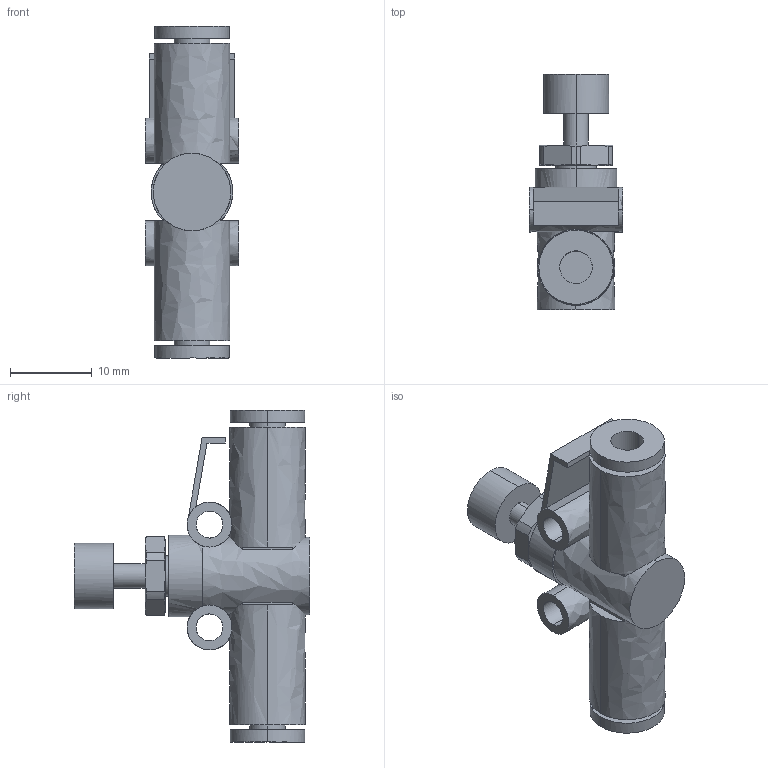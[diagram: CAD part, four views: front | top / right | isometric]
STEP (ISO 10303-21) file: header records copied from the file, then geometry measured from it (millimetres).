
FILE_DESCRIPTION (( 'STEP AP214' ), '1' );
FILE_NAME ('AS2002F-04.STEP', '2023-03-08T10:05:52', ( 'Windows User' ), ( 'P R C' ), 'SwSTEP 2.0', 'SolidWorks 2019', '' );
FILE_SCHEMA (( 'AUTOMOTIVE_DESIGN' ));
Length unit declared in the file: millimetre
Products named in the file (1): AS2002F-04
Bounding box: 11.5 x 28.9 x 40.7 mm (x, y, z)
Volume: 3905.3 mm3; surface area: 3393.8 mm2
Topology: 1 solids, 1 shells, 86 faces, 221 edges, 148 vertices
Faces by surface type: bspline 45, plane 41
Entity records: 3871 total; most frequent: CARTESIAN_POINT 2400, ORIENTED_EDGE 442, EDGE_CURVE 221, B_SPLINE_CURVE_WITH_KNOTS 159, VERTEX_POINT 148, EDGE_LOOP 105, ADVANCED_FACE 86, FACE_OUTER_BOUND 86
